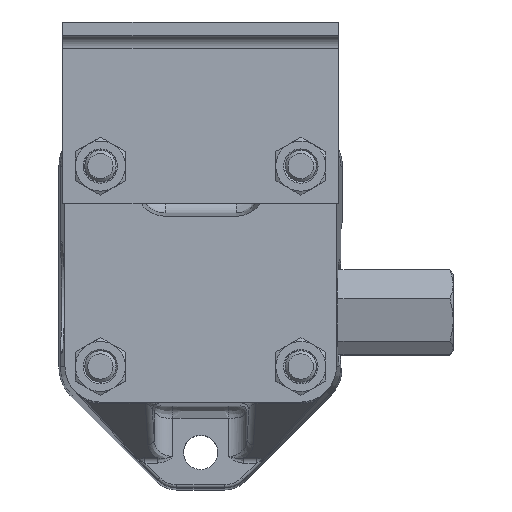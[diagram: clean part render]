
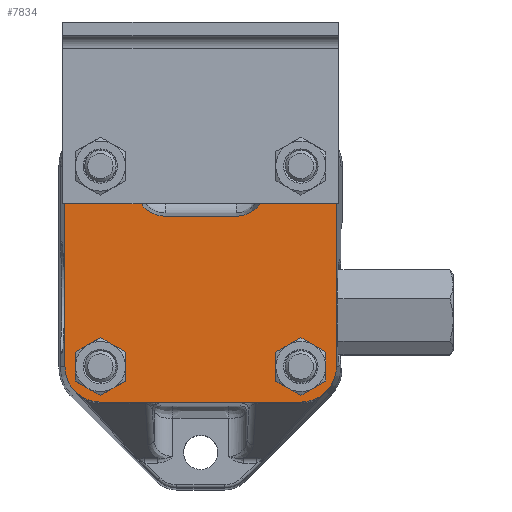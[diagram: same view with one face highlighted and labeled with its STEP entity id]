
A CAD part, top view. The second image highlights one B-rep face of the part: STEP entity #7834.
In plain terms, the highlighted planar face has unit normal (0, 0, 1).
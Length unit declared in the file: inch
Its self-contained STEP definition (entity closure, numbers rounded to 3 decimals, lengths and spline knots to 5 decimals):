
#610=ELLIPSE($,#8336,0.04271,0.031);
#611=ELLIPSE($,#8339,0.04271,0.031);
#650=LINE($,#11525,#1122);
#658=LINE($,#11563,#1130);
#659=LINE($,#11567,#1131);
#660=LINE($,#11571,#1132);
#661=LINE($,#11584,#1133);
#662=LINE($,#11597,#1134);
#663=LINE($,#11602,#1135);
#664=LINE($,#11606,#1136);
#1122=VECTOR($,#9200,2.);
#1130=VECTOR($,#9236,0.209);
#1131=VECTOR($,#9239,2.);
#1132=VECTOR($,#9242,0.00994);
#1133=VECTOR($,#9247,2.);
#1134=VECTOR($,#9252,0.00994);
#1135=VECTOR($,#9257,0.209);
#1136=VECTOR($,#9260,0.7096);
#1595=PLANE($,#8329);
#1785=B_SPLINE_CURVE_WITH_KNOTS($,3,(#11575,#11576,#11577,#11578,#11579,
#11580),.UNSPECIFIED.,.F.,.F.,(4,2,4),(-0.02619,-0.01013,
0.),.UNSPECIFIED.);
#1786=B_SPLINE_CURVE_WITH_KNOTS($,3,(#11588,#11589,#11590,#11591,#11592,
#11593),.UNSPECIFIED.,.F.,.F.,(4,2,4),(-0.0262,-0.01597,
0.),.UNSPECIFIED.);
#2042=FACE_BOUND($,#2626,.T.);
#2043=FACE_BOUND($,#2627,.T.);
#2044=FACE_BOUND($,#2628,.T.);
#2045=FACE_BOUND($,#2629,.T.);
#2046=FACE_BOUND($,#2630,.T.);
#2626=EDGE_LOOP($,(#5709));
#2627=EDGE_LOOP($,(#5710));
#2628=EDGE_LOOP($,(#5711));
#2629=EDGE_LOOP($,(#5712));
#2630=EDGE_LOOP($,(#5713,#5714,#5715,#5716,#5717,#5718,#5719,#5720,#5721,
#5722,#5723,#5724,#5725,#5726,#5727,#5728,#5729,#5730,#5731,#5732));
#3186=CIRCLE($,#8330,0.172);
#3187=CIRCLE($,#8331,0.172);
#3188=CIRCLE($,#8332,0.172);
#3189=CIRCLE($,#8333,0.172);
#3190=CIRCLE($,#8334,0.35429);
#3191=CIRCLE($,#8335,0.35429);
#3192=CIRCLE($,#8337,0.35429);
#3193=CIRCLE($,#8338,0.35429);
#3194=CIRCLE($,#8340,0.35429);
#3195=CIRCLE($,#8341,0.35429);
#3196=CIRCLE($,#8342,0.29091);
#3197=CIRCLE($,#8343,0.29091);
#3614=VERTEX_POINT($,#11522);
#3615=VERTEX_POINT($,#11524);
#3626=VERTEX_POINT($,#11553);
#3627=VERTEX_POINT($,#11555);
#3628=VERTEX_POINT($,#11557);
#3629=VERTEX_POINT($,#11559);
#3630=VERTEX_POINT($,#11561);
#3631=VERTEX_POINT($,#11562);
#3632=VERTEX_POINT($,#11564);
#3633=VERTEX_POINT($,#11566);
#3634=VERTEX_POINT($,#11568);
#3635=VERTEX_POINT($,#11570);
#3636=VERTEX_POINT($,#11572);
#3637=VERTEX_POINT($,#11574);
#3638=VERTEX_POINT($,#11581);
#3639=VERTEX_POINT($,#11583);
#3640=VERTEX_POINT($,#11585);
#3641=VERTEX_POINT($,#11587);
#3642=VERTEX_POINT($,#11594);
#3643=VERTEX_POINT($,#11596);
#3644=VERTEX_POINT($,#11599);
#3645=VERTEX_POINT($,#11601);
#3646=VERTEX_POINT($,#11603);
#3647=VERTEX_POINT($,#11605);
#4455=EDGE_CURVE($,#3614,#3615,#650,.T.);
#4468=EDGE_CURVE($,#3626,#3626,#3186,.T.);
#4469=EDGE_CURVE($,#3627,#3627,#3187,.T.);
#4470=EDGE_CURVE($,#3628,#3628,#3188,.T.);
#4471=EDGE_CURVE($,#3629,#3629,#3189,.T.);
#4472=EDGE_CURVE($,#3630,#3631,#658,.T.);
#4473=EDGE_CURVE($,#3632,#3630,#3190,.T.);
#4474=EDGE_CURVE($,#3633,#3632,#659,.T.);
#4475=EDGE_CURVE($,#3634,#3633,#3191,.T.);
#4476=EDGE_CURVE($,#3635,#3634,#660,.T.);
#4477=EDGE_CURVE($,#3636,#3635,#610,.T.);
#4478=EDGE_CURVE($,#3637,#3636,#1785,.T.);
#4479=EDGE_CURVE($,#3638,#3637,#3192,.T.);
#4480=EDGE_CURVE($,#3639,#3638,#661,.T.);
#4481=EDGE_CURVE($,#3640,#3639,#3193,.T.);
#4482=EDGE_CURVE($,#3641,#3640,#1786,.T.);
#4483=EDGE_CURVE($,#3642,#3641,#611,.T.);
#4484=EDGE_CURVE($,#3643,#3642,#662,.T.);
#4485=EDGE_CURVE($,#3615,#3643,#3194,.T.);
#4486=EDGE_CURVE($,#3644,#3614,#3195,.T.);
#4487=EDGE_CURVE($,#3645,#3644,#663,.T.);
#4488=EDGE_CURVE($,#3646,#3645,#3196,.T.);
#4489=EDGE_CURVE($,#3647,#3646,#664,.T.);
#4490=EDGE_CURVE($,#3631,#3647,#3197,.T.);
#5709=ORIENTED_EDGE($,*,*,#4468,.T.);
#5710=ORIENTED_EDGE($,*,*,#4469,.T.);
#5711=ORIENTED_EDGE($,*,*,#4470,.T.);
#5712=ORIENTED_EDGE($,*,*,#4471,.T.);
#5713=ORIENTED_EDGE($,*,*,#4472,.F.);
#5714=ORIENTED_EDGE($,*,*,#4473,.F.);
#5715=ORIENTED_EDGE($,*,*,#4474,.F.);
#5716=ORIENTED_EDGE($,*,*,#4475,.F.);
#5717=ORIENTED_EDGE($,*,*,#4476,.F.);
#5718=ORIENTED_EDGE($,*,*,#4477,.F.);
#5719=ORIENTED_EDGE($,*,*,#4478,.F.);
#5720=ORIENTED_EDGE($,*,*,#4479,.F.);
#5721=ORIENTED_EDGE($,*,*,#4480,.F.);
#5722=ORIENTED_EDGE($,*,*,#4481,.F.);
#5723=ORIENTED_EDGE($,*,*,#4482,.F.);
#5724=ORIENTED_EDGE($,*,*,#4483,.F.);
#5725=ORIENTED_EDGE($,*,*,#4484,.F.);
#5726=ORIENTED_EDGE($,*,*,#4485,.F.);
#5727=ORIENTED_EDGE($,*,*,#4455,.F.);
#5728=ORIENTED_EDGE($,*,*,#4486,.F.);
#5729=ORIENTED_EDGE($,*,*,#4487,.F.);
#5730=ORIENTED_EDGE($,*,*,#4488,.F.);
#5731=ORIENTED_EDGE($,*,*,#4489,.F.);
#5732=ORIENTED_EDGE($,*,*,#4490,.F.);
#7834=ADVANCED_FACE($,(#2042,#2043,#2044,#2045,#2046),#1595,.F.);
#8329=AXIS2_PLACEMENT_3D($,#11552,#9226,#9227);
#8330=AXIS2_PLACEMENT_3D($,#11554,#9228,#9229);
#8331=AXIS2_PLACEMENT_3D($,#11556,#9230,#9231);
#8332=AXIS2_PLACEMENT_3D($,#11558,#9232,#9233);
#8333=AXIS2_PLACEMENT_3D($,#11560,#9234,#9235);
#8334=AXIS2_PLACEMENT_3D($,#11565,#9237,#9238);
#8335=AXIS2_PLACEMENT_3D($,#11569,#9240,#9241);
#8336=AXIS2_PLACEMENT_3D($,#11573,#9243,#9244);
#8337=AXIS2_PLACEMENT_3D($,#11582,#9245,#9246);
#8338=AXIS2_PLACEMENT_3D($,#11586,#9248,#9249);
#8339=AXIS2_PLACEMENT_3D($,#11595,#9250,#9251);
#8340=AXIS2_PLACEMENT_3D($,#11598,#9253,#9254);
#8341=AXIS2_PLACEMENT_3D($,#11600,#9255,#9256);
#8342=AXIS2_PLACEMENT_3D($,#11604,#9258,#9259);
#8343=AXIS2_PLACEMENT_3D($,#11607,#9261,#9262);
#9200=DIRECTION($,(0.,-1.,0.));
#9226=DIRECTION('center_axis',(0.,0.,-1.));
#9227=DIRECTION('ref_axis',(-1.,0.,0.));
#9228=DIRECTION('center_axis',(0.,0.,-1.));
#9229=DIRECTION('ref_axis',(1.,0.,0.));
#9230=DIRECTION('center_axis',(0.,0.,-1.));
#9231=DIRECTION('ref_axis',(1.,0.,0.));
#9232=DIRECTION('center_axis',(0.,0.,-1.));
#9233=DIRECTION('ref_axis',(1.,0.,0.));
#9234=DIRECTION('center_axis',(0.,0.,-1.));
#9235=DIRECTION('ref_axis',(1.,0.,0.));
#9236=DIRECTION($,(0.,-1.,0.));
#9237=DIRECTION('center_axis',(0.,0.,-1.));
#9238=DIRECTION('ref_axis',(0.,-1.,0.));
#9239=DIRECTION($,(0.,1.,0.));
#9240=DIRECTION('center_axis',(0.,0.,-1.));
#9241=DIRECTION('ref_axis',(1.,0.,0.));
#9242=DIRECTION($,(-0.707,0.707,0.));
#9243=DIRECTION('center_axis',(0.,0.,-1.));
#9244=DIRECTION('ref_axis',(0.674,-0.739,0.));
#9245=DIRECTION('center_axis',(0.,0.,-1.));
#9246=DIRECTION('ref_axis',(1.,0.,0.));
#9247=DIRECTION($,(-1.,0.,0.));
#9248=DIRECTION('center_axis',(0.,0.,-1.));
#9249=DIRECTION('ref_axis',(-0.707,0.707,0.));
#9250=DIRECTION('center_axis',(0.,0.,-1.));
#9251=DIRECTION('ref_axis',(-0.674,-0.739,0.));
#9252=DIRECTION($,(-0.707,-0.707,0.));
#9253=DIRECTION('center_axis',(0.,0.,-1.));
#9254=DIRECTION('ref_axis',(-0.707,0.707,0.));
#9255=DIRECTION('center_axis',(0.,0.,-1.));
#9256=DIRECTION('ref_axis',(-1.,0.,0.));
#9257=DIRECTION($,(0.,1.,0.));
#9258=DIRECTION('center_axis',(0.,0.,1.));
#9259=DIRECTION('ref_axis',(0.,1.,0.));
#9260=DIRECTION($,(1.,0.,0.));
#9261=DIRECTION('center_axis',(0.,0.,1.));
#9262=DIRECTION('ref_axis',(1.,0.,0.));
#11522=CARTESIAN_POINT('',(1.35429,1.,1.437));
#11524=CARTESIAN_POINT('',(1.35429,-1.,1.437));
#11525=CARTESIAN_POINT($,(1.35429,1.50871,1.437));
#11552=CARTESIAN_POINT('Origin',(0.,2.01742,1.437));
#11553=CARTESIAN_POINT('',(0.828,-1.,1.437));
#11554=CARTESIAN_POINT('Origin',(1.,-1.,1.437));
#11555=CARTESIAN_POINT('',(-1.172,-1.,1.437));
#11556=CARTESIAN_POINT('Origin',(-1.,-1.,1.437));
#11557=CARTESIAN_POINT('',(-1.172,1.,1.437));
#11558=CARTESIAN_POINT('Origin',(-1.,1.,1.437));
#11559=CARTESIAN_POINT('',(0.828,1.,1.437));
#11560=CARTESIAN_POINT('Origin',(1.,1.,1.437));
#11561=CARTESIAN_POINT('',(-0.64571,1.,1.437));
#11562=CARTESIAN_POINT('',(-0.64571,0.791,1.437));
#11563=CARTESIAN_POINT($,(-0.64571,1.50871,1.437));
#11564=CARTESIAN_POINT('',(-1.35429,1.,1.437));
#11565=CARTESIAN_POINT('Origin',(-1.,1.,1.437));
#11566=CARTESIAN_POINT('',(-1.35429,-1.,1.437));
#11567=CARTESIAN_POINT($,(-1.35429,0.50871,1.437));
#11568=CARTESIAN_POINT('',(-1.25052,-1.25052,1.437));
#11569=CARTESIAN_POINT('Origin',(-1.,-1.,1.437));
#11570=CARTESIAN_POINT('',(-1.24349,-1.25755,1.437));
#11571=CARTESIAN_POINT($,(-1.33032,-1.17072,1.437));
#11572=CARTESIAN_POINT('',(-1.24066,-1.26019,1.437));
#11573=CARTESIAN_POINT('Origin',(-1.22245,-1.23471,1.437));
#11574=CARTESIAN_POINT('',(-1.23291,-1.26697,1.437));
#11575=CARTESIAN_POINT('Ctrl Pts',(-1.23291,-1.26697,
1.437));
#11576=CARTESIAN_POINT('Ctrl Pts',(-1.2345,-1.26558,
1.437));
#11577=CARTESIAN_POINT('Ctrl Pts',(-1.23608,-1.26421,
1.437));
#11578=CARTESIAN_POINT('Ctrl Pts',(-1.23867,-1.26194,
1.437));
#11579=CARTESIAN_POINT('Ctrl Pts',(-1.23966,-1.26107,
1.437));
#11580=CARTESIAN_POINT('Ctrl Pts',(-1.24066,-1.26019,1.437));
#11581=CARTESIAN_POINT('',(-1.,-1.35429,1.437));
#11582=CARTESIAN_POINT('Origin',(-1.,-1.,1.437));
#11583=CARTESIAN_POINT('',(1.,-1.35429,1.437));
#11584=CARTESIAN_POINT($,(0.5,-1.35429,1.437));
#11585=CARTESIAN_POINT('',(1.23291,-1.26697,1.437));
#11586=CARTESIAN_POINT('Origin',(1.,-1.,1.437));
#11587=CARTESIAN_POINT('',(1.24066,-1.26019,1.437));
#11588=CARTESIAN_POINT('Ctrl Pts',(1.24066,-1.26019,1.437));
#11589=CARTESIAN_POINT('Ctrl Pts',(1.23965,-1.26108,1.437));
#11590=CARTESIAN_POINT('Ctrl Pts',(1.23865,-1.26196,1.437));
#11591=CARTESIAN_POINT('Ctrl Pts',(1.23606,-1.26422,1.437));
#11592=CARTESIAN_POINT('Ctrl Pts',(1.23449,-1.26559,1.437));
#11593=CARTESIAN_POINT('Ctrl Pts',(1.23291,-1.26697,1.437));
#11594=CARTESIAN_POINT('',(1.24349,-1.25755,1.437));
#11595=CARTESIAN_POINT('Origin',(1.22245,-1.23471,1.437));
#11596=CARTESIAN_POINT('',(1.25052,-1.25052,1.437));
#11597=CARTESIAN_POINT($,(1.75488,-0.74616,1.437));
#11598=CARTESIAN_POINT('Origin',(1.,-1.,1.437));
#11599=CARTESIAN_POINT('',(0.64571,1.,1.437));
#11600=CARTESIAN_POINT('Origin',(1.,1.,1.437));
#11601=CARTESIAN_POINT('',(0.64571,0.791,1.437));
#11602=CARTESIAN_POINT($,(0.64571,1.40421,1.437));
#11603=CARTESIAN_POINT('',(0.3548,0.50009,1.437));
#11604=CARTESIAN_POINT('Origin',(0.3548,0.791,1.437));
#11605=CARTESIAN_POINT('',(-0.3548,0.50009,1.437));
#11606=CARTESIAN_POINT($,(-0.1774,0.50009,1.437));
#11607=CARTESIAN_POINT('Origin',(-0.3548,0.791,1.437));
